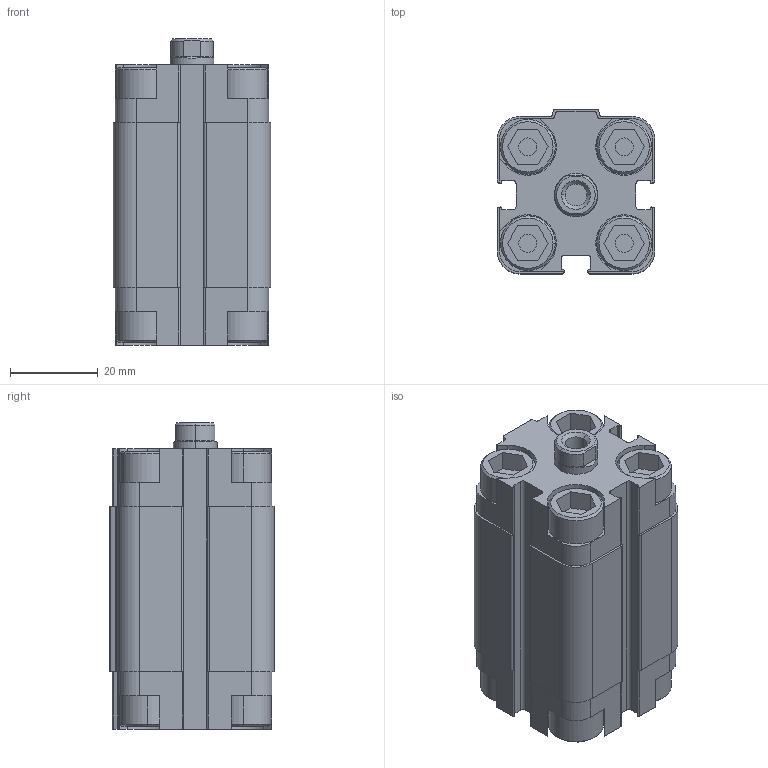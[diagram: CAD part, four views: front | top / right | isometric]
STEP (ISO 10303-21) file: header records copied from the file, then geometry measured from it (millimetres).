
FILE_DESCRIPTION (( 'STEP AP203' ), '1' );
FILE_NAME ('WB0200025A.step', '2013-04-20T09:41:23', ( '' ), ( '' ), 'SwSTEP 2.0', 'SolidWorks 2012', '' );
FILE_SCHEMA (( 'CONFIG_CONTROL_DESIGN' ));
Length unit declared in the file: millimetre
Products named in the file (1): WB0200025A
Bounding box: 36 x 37.5 x 69.95 mm (x, y, z)
Volume: 70360.6 mm3; surface area: 18600.4 mm2
Topology: 1 solids, 1 shells, 320 faces, 836 edges, 547 vertices
Faces by surface type: plane 185, cylinder 107, cone 28
Entity records: 9908 total; most frequent: CARTESIAN_POINT 1746, DIRECTION 1715, ORIENTED_EDGE 1672, EDGE_CURVE 836, AXIS2_PLACEMENT_3D 572, LINE 571, VECTOR 571, VERTEX_POINT 547
